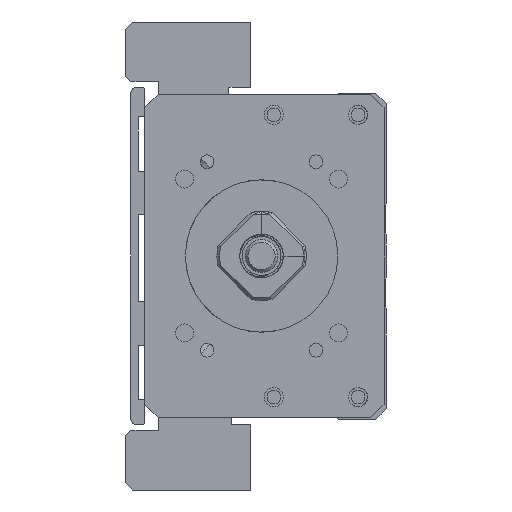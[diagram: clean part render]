
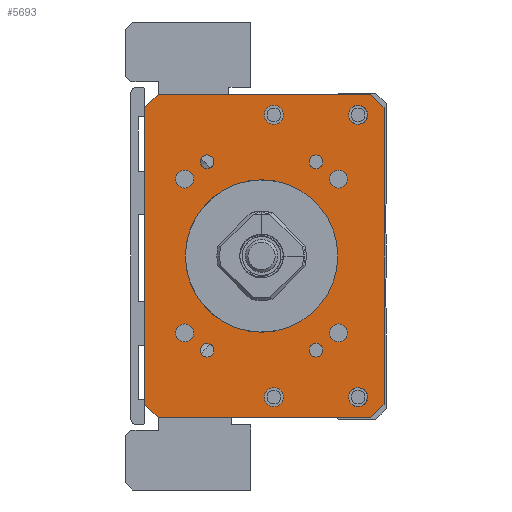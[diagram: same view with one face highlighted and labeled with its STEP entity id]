
A CAD part, left-side view. The second image highlights one B-rep face of the part: STEP entity #5693.
In plain terms, the highlighted planar face has unit normal (-1, 0, 0).
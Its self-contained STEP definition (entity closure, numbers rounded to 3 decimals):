
#4658=FACE_BOUND('',#7452,.T.);
#4659=FACE_BOUND('',#7453,.T.);
#4660=FACE_BOUND('',#7454,.T.);
#4661=FACE_BOUND('',#7455,.T.);
#4662=FACE_BOUND('',#7456,.T.);
#4663=FACE_BOUND('',#7457,.T.);
#4664=FACE_BOUND('',#7458,.T.);
#4665=FACE_BOUND('',#7459,.T.);
#4666=FACE_BOUND('',#7460,.T.);
#4667=FACE_BOUND('',#7461,.T.);
#4668=FACE_BOUND('',#7462,.T.);
#4669=FACE_BOUND('',#7463,.T.);
#4670=FACE_BOUND('',#7464,.T.);
#4671=FACE_BOUND('',#7465,.T.);
#5088=CIRCLE('',#16280,14.);
#5097=CIRCLE('',#16291,1.65);
#5098=CIRCLE('',#16292,1.65);
#5099=CIRCLE('',#16293,1.65);
#5100=CIRCLE('',#16294,1.65);
#5101=CIRCLE('',#16295,1.25);
#5102=CIRCLE('',#16296,1.75);
#5103=CIRCLE('',#16297,1.25);
#5104=CIRCLE('',#16298,1.75);
#5105=CIRCLE('',#16299,1.25);
#5106=CIRCLE('',#16300,1.75);
#5107=CIRCLE('',#16301,1.75);
#5108=CIRCLE('',#16302,1.25);
#5693=ADVANCED_FACE('',(#4658,#4659,#4660,#4661,#4662,#4663,#4664,#4665,
#4666,#4667,#4668,#4669,#4670,#4671),#6280,.F.);
#6280=PLANE('',#16303);
#7452=EDGE_LOOP('',(#9685));
#7453=EDGE_LOOP('',(#9686));
#7454=EDGE_LOOP('',(#9687));
#7455=EDGE_LOOP('',(#9688));
#7456=EDGE_LOOP('',(#9689));
#7457=EDGE_LOOP('',(#9690));
#7458=EDGE_LOOP('',(#9691));
#7459=EDGE_LOOP('',(#9692));
#7460=EDGE_LOOP('',(#9693));
#7461=EDGE_LOOP('',(#9694,#9695,#9696,#9697,#9698,#9699,#9700,#9701));
#7462=EDGE_LOOP('',(#9702));
#7463=EDGE_LOOP('',(#9703));
#7464=EDGE_LOOP('',(#9704));
#7465=EDGE_LOOP('',(#9705));
#9685=ORIENTED_EDGE('',*,*,#13086,.F.);
#9686=ORIENTED_EDGE('',*,*,#13087,.F.);
#9687=ORIENTED_EDGE('',*,*,#13088,.F.);
#9688=ORIENTED_EDGE('',*,*,#13089,.F.);
#9689=ORIENTED_EDGE('',*,*,#13090,.F.);
#9690=ORIENTED_EDGE('',*,*,#13091,.T.);
#9691=ORIENTED_EDGE('',*,*,#13092,.F.);
#9692=ORIENTED_EDGE('',*,*,#13093,.F.);
#9693=ORIENTED_EDGE('',*,*,#13094,.F.);
#9694=ORIENTED_EDGE('',*,*,#13083,.T.);
#9695=ORIENTED_EDGE('',*,*,#13095,.T.);
#9696=ORIENTED_EDGE('',*,*,#13096,.F.);
#9697=ORIENTED_EDGE('',*,*,#13097,.T.);
#9698=ORIENTED_EDGE('',*,*,#13098,.F.);
#9699=ORIENTED_EDGE('',*,*,#13099,.T.);
#9700=ORIENTED_EDGE('',*,*,#13100,.T.);
#9701=ORIENTED_EDGE('',*,*,#13101,.T.);
#9702=ORIENTED_EDGE('',*,*,#13102,.F.);
#9703=ORIENTED_EDGE('',*,*,#13103,.F.);
#9704=ORIENTED_EDGE('',*,*,#13104,.F.);
#9705=ORIENTED_EDGE('',*,*,#13063,.F.);
#11709=VERTEX_POINT('',#22590);
#11729=VERTEX_POINT('',#22650);
#11730=VERTEX_POINT('',#22652);
#11732=VERTEX_POINT('',#22658);
#11733=VERTEX_POINT('',#22660);
#11734=VERTEX_POINT('',#22662);
#11735=VERTEX_POINT('',#22664);
#11736=VERTEX_POINT('',#22666);
#11737=VERTEX_POINT('',#22668);
#11738=VERTEX_POINT('',#22670);
#11739=VERTEX_POINT('',#22672);
#11740=VERTEX_POINT('',#22674);
#11741=VERTEX_POINT('',#22676);
#11742=VERTEX_POINT('',#22678);
#11743=VERTEX_POINT('',#22680);
#11744=VERTEX_POINT('',#22682);
#11745=VERTEX_POINT('',#22684);
#11746=VERTEX_POINT('',#22686);
#11747=VERTEX_POINT('',#22689);
#11748=VERTEX_POINT('',#22691);
#11749=VERTEX_POINT('',#22693);
#13063=EDGE_CURVE('',#11709,#11709,#5088,.T.);
#13083=EDGE_CURVE('',#11730,#11729,#14403,.T.);
#13086=EDGE_CURVE('',#11732,#11732,#5097,.T.);
#13087=EDGE_CURVE('',#11733,#11733,#5098,.T.);
#13088=EDGE_CURVE('',#11734,#11734,#5099,.T.);
#13089=EDGE_CURVE('',#11735,#11735,#5100,.T.);
#13090=EDGE_CURVE('',#11736,#11736,#5101,.T.);
#13091=EDGE_CURVE('',#11737,#11737,#5102,.T.);
#13092=EDGE_CURVE('',#11738,#11738,#5103,.T.);
#13093=EDGE_CURVE('',#11739,#11739,#5104,.T.);
#13094=EDGE_CURVE('',#11740,#11740,#5105,.T.);
#13095=EDGE_CURVE('',#11729,#11741,#14405,.T.);
#13096=EDGE_CURVE('',#11742,#11741,#14406,.T.);
#13097=EDGE_CURVE('',#11742,#11743,#14407,.T.);
#13098=EDGE_CURVE('',#11744,#11743,#14408,.T.);
#13099=EDGE_CURVE('',#11744,#11745,#14409,.T.);
#13100=EDGE_CURVE('',#11745,#11746,#14410,.T.);
#13101=EDGE_CURVE('',#11746,#11730,#14411,.T.);
#13102=EDGE_CURVE('',#11747,#11747,#5106,.T.);
#13103=EDGE_CURVE('',#11748,#11748,#5107,.T.);
#13104=EDGE_CURVE('',#11749,#11749,#5108,.T.);
#14403=LINE('',#22651,#15362);
#14405=LINE('',#22675,#15364);
#14406=LINE('',#22677,#15365);
#14407=LINE('',#22679,#15366);
#14408=LINE('',#22681,#15367);
#14409=LINE('',#22683,#15368);
#14410=LINE('',#22685,#15369);
#14411=LINE('',#22687,#15370);
#15362=VECTOR('',#18643,1.);
#15364=VECTOR('',#18667,1.);
#15365=VECTOR('',#18668,1.);
#15366=VECTOR('',#18669,1.);
#15367=VECTOR('',#18670,1.);
#15368=VECTOR('',#18671,1.);
#15369=VECTOR('',#18672,1.);
#15370=VECTOR('',#18673,1.);
#16280=AXIS2_PLACEMENT_3D('',#22589,#18617,#18618);
#16291=AXIS2_PLACEMENT_3D('',#22657,#18649,#18650);
#16292=AXIS2_PLACEMENT_3D('',#22659,#18651,#18652);
#16293=AXIS2_PLACEMENT_3D('',#22661,#18653,#18654);
#16294=AXIS2_PLACEMENT_3D('',#22663,#18655,#18656);
#16295=AXIS2_PLACEMENT_3D('',#22665,#18657,#18658);
#16296=AXIS2_PLACEMENT_3D('',#22667,#18659,#18660);
#16297=AXIS2_PLACEMENT_3D('',#22669,#18661,#18662);
#16298=AXIS2_PLACEMENT_3D('',#22671,#18663,#18664);
#16299=AXIS2_PLACEMENT_3D('',#22673,#18665,#18666);
#16300=AXIS2_PLACEMENT_3D('',#22688,#18674,#18675);
#16301=AXIS2_PLACEMENT_3D('',#22690,#18676,#18677);
#16302=AXIS2_PLACEMENT_3D('',#22692,#18678,#18679);
#16303=AXIS2_PLACEMENT_3D('',#22694,#18680,#18681);
#18617=DIRECTION('',(-1.,0.,0.));
#18618=DIRECTION('',(0.,1.,0.));
#18643=DIRECTION('',(0.,0.,-1.));
#18649=DIRECTION('',(-1.,0.,0.));
#18650=DIRECTION('',(0.,0.,1.));
#18651=DIRECTION('',(-1.,0.,0.));
#18652=DIRECTION('',(0.,0.,1.));
#18653=DIRECTION('',(-1.,0.,0.));
#18654=DIRECTION('',(0.,0.,1.));
#18655=DIRECTION('',(-1.,0.,0.));
#18656=DIRECTION('',(0.,0.,1.));
#18657=DIRECTION('',(-1.,0.,0.));
#18658=DIRECTION('',(0.,1.,0.));
#18659=DIRECTION('',(1.,0.,0.));
#18660=DIRECTION('',(0.,0.,1.));
#18661=DIRECTION('',(-1.,0.,0.));
#18662=DIRECTION('',(0.,1.,0.));
#18663=DIRECTION('',(-1.,0.,0.));
#18664=DIRECTION('',(0.,0.,1.));
#18665=DIRECTION('',(-1.,0.,0.));
#18666=DIRECTION('',(0.,1.,0.));
#18667=DIRECTION('',(0.,-0.707,-0.707));
#18668=DIRECTION('',(0.,1.,0.));
#18669=DIRECTION('',(0.,-0.707,0.707));
#18670=DIRECTION('',(0.,0.,-1.));
#18671=DIRECTION('',(0.,0.707,0.707));
#18672=DIRECTION('',(0.,1.,0.));
#18673=DIRECTION('',(0.,0.707,-0.707));
#18674=DIRECTION('',(-1.,0.,0.));
#18675=DIRECTION('',(0.,0.,1.));
#18676=DIRECTION('',(-1.,0.,0.));
#18677=DIRECTION('',(0.,0.,1.));
#18678=DIRECTION('',(-1.,0.,0.));
#18679=DIRECTION('',(0.,1.,0.));
#18680=DIRECTION('',(1.,0.,0.));
#18681=DIRECTION('',(0.,1.,0.));
#22589=CARTESIAN_POINT('',(-211.,0.,-200.));
#22590=CARTESIAN_POINT('',(-211.,14.,-200.));
#22650=CARTESIAN_POINT('',(-211.,21.499,-227.25));
#22651=CARTESIAN_POINT('',(-211.,21.499,-170.25));
#22652=CARTESIAN_POINT('',(-211.,21.499,-172.75));
#22657=CARTESIAN_POINT('',(-211.,14.142,-185.858));
#22658=CARTESIAN_POINT('',(-211.,14.142,-184.208));
#22659=CARTESIAN_POINT('',(-211.,-14.142,-185.858));
#22660=CARTESIAN_POINT('',(-211.,-14.142,-184.208));
#22661=CARTESIAN_POINT('',(-211.,14.142,-214.142));
#22662=CARTESIAN_POINT('',(-211.,14.142,-212.492));
#22663=CARTESIAN_POINT('',(-211.,-14.142,-214.142));
#22664=CARTESIAN_POINT('',(-211.,-14.142,-212.492));
#22665=CARTESIAN_POINT('',(-211.,-10.,-217.321));
#22666=CARTESIAN_POINT('',(-211.,-8.75,-217.321));
#22667=CARTESIAN_POINT('',(-211.,-2.25,-225.936));
#22668=CARTESIAN_POINT('',(-211.,-2.25,-224.186));
#22669=CARTESIAN_POINT('',(-211.,10.,-182.679));
#22670=CARTESIAN_POINT('',(-211.,11.25,-182.679));
#22671=CARTESIAN_POINT('',(-211.,-2.25,-174.064));
#22672=CARTESIAN_POINT('',(-211.,-2.25,-172.314));
#22673=CARTESIAN_POINT('',(-211.,10.,-217.321));
#22674=CARTESIAN_POINT('',(-211.,11.25,-217.321));
#22675=CARTESIAN_POINT('',(-211.,18.999,-229.75));
#22676=CARTESIAN_POINT('',(-211.,18.999,-229.75));
#22677=CARTESIAN_POINT('',(-211.,-22.501,-229.75));
#22678=CARTESIAN_POINT('',(-211.,-20.001,-229.75));
#22679=CARTESIAN_POINT('',(-211.,-22.501,-227.25));
#22680=CARTESIAN_POINT('',(-211.,-22.501,-227.25));
#22681=CARTESIAN_POINT('',(-211.,-22.501,-170.25));
#22682=CARTESIAN_POINT('',(-211.,-22.501,-172.75));
#22683=CARTESIAN_POINT('',(-211.,-22.501,-172.75));
#22684=CARTESIAN_POINT('',(-211.,-20.001,-170.25));
#22685=CARTESIAN_POINT('',(-211.,-22.501,-170.25));
#22686=CARTESIAN_POINT('',(-211.,18.999,-170.25));
#22687=CARTESIAN_POINT('',(-211.,18.999,-170.25));
#22688=CARTESIAN_POINT('',(-211.,-17.75,-174.064));
#22689=CARTESIAN_POINT('',(-211.,-17.75,-172.314));
#22690=CARTESIAN_POINT('',(-211.,-17.75,-225.936));
#22691=CARTESIAN_POINT('',(-211.,-17.75,-224.186));
#22692=CARTESIAN_POINT('',(-211.,-10.,-182.679));
#22693=CARTESIAN_POINT('',(-211.,-8.75,-182.679));
#22694=CARTESIAN_POINT('',(-211.,-22.501,-170.25));
